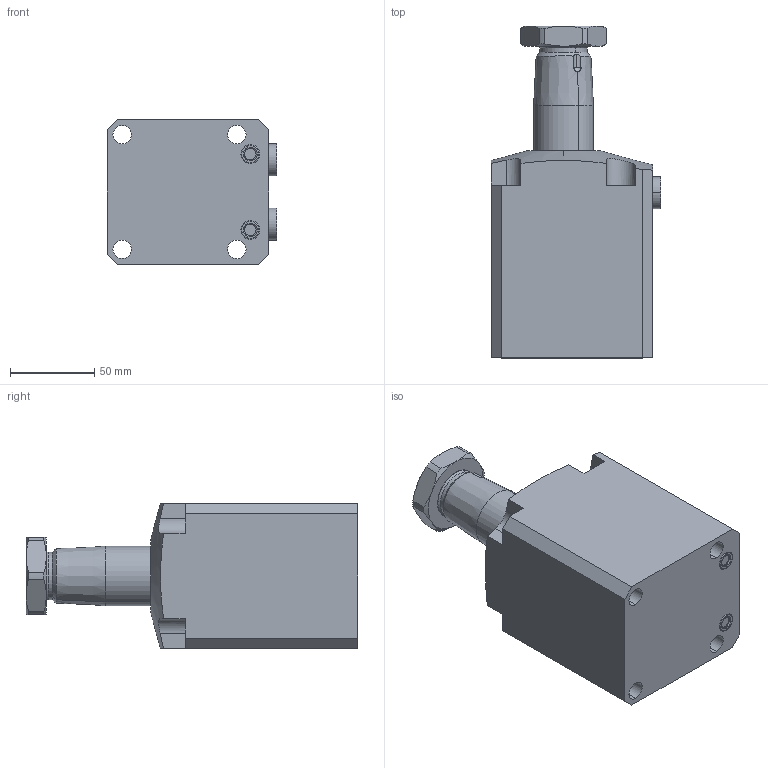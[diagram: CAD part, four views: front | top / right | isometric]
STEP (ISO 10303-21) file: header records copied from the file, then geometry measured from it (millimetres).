
FILE_DESCRIPTION(/* description */ (''),/* implementation_level */ '2;1');
FILE_NAME(/* name */ 'BRC16-LN60.stp',/* time_stamp */ '2025-01-05T08:14:53+08:00',/* author */ (''),/* organization */ (''),/* preprocessor_version */ 'ST-DEVELOPER v16.7',/* originating_system */ 'SIEMENS PLM Software NX 12.0',/* authorisation */ '');
FILE_SCHEMA (('AUTOMOTIVE_DESIGN { 1 0 10303 214 3 1 1 1 }'));
Length unit declared in the file: millimetre
Products named in the file (5): BRC16-LN60-04; BRC16-LN60-03; BRC16-LN60-02; BRC16-LN60-01; BTU16-LN60_step
Assembly tree (5 placements, depth 2):
  BTU16-LN60_step
    BRC16-LN60-01
    BRC16-LN60-02
    BRC16-LN60-03  x2
    BRC16-LN60-04
Bounding box: 100.8 x 196.9 x 86 mm (x, y, z)
Volume: 975611.2 mm3; surface area: 93557.9 mm2
Topology: 7 solids, 7 shells, 176 faces, 401 edges, 248 vertices
Faces by surface type: plane 68, cylinder 57, cone 34, torus 16, sphere 1
Full cylindrical faces by diameter (mm): 13 x2
Entity records: 4667 total; most frequent: CARTESIAN_POINT 964, DIRECTION 778, ORIENTED_EDGE 712, EDGE_CURVE 356, AXIS2_PLACEMENT_3D 313, VERTEX_POINT 222, EDGE_LOOP 180, ADVANCED_FACE 156
